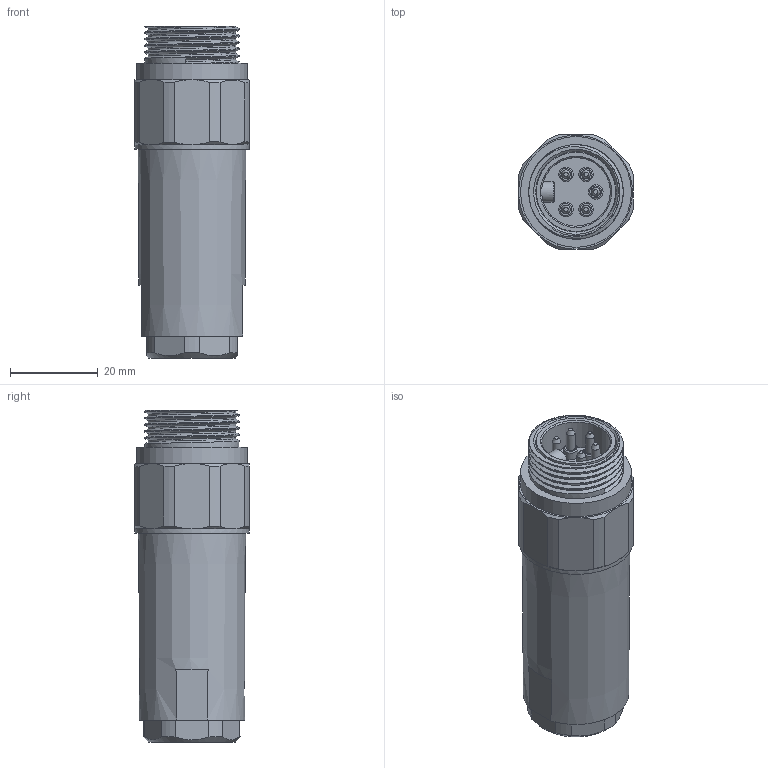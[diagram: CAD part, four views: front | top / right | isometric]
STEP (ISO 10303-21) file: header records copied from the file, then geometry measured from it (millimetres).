
FILE_DESCRIPTION(/* description */ (''),/* implementation_level */ '2;1');
FILE_NAME(/* name */ '7 8 5MS-PG11-0919.stp',/* time_stamp */ '2024-09-11T16:11:33+08:00',/* author */ (''),/* organization */ (''),/* preprocessor_version */ 'ST-DEVELOPER v16.7',/* originating_system */ 'SIEMENS PLM Software NX 12.0',/* authorisation */ '');
FILE_SCHEMA (('AP203_CONFIGURATION_CONTROLLED_3D_DESIGN_OF_MECHANICAL_PARTS_AND_ASSEMBLIES_MIM_LF { 1 0 10303 403 2 1 2}'));
Products named in the file (1): lyj16B44E27mjrk
Bounding box: 26 x 26 x 75.5 mm (x, y, z)
Surface area: 19604.7 mm2
Topology: 3 solids, 4 shells, 617 faces, 1861 edges, 1229 vertices
Faces by surface type: cylinder 236, plane 228, bspline 83, cone 50, revolution 11, torus 9
Full cylindrical faces by diameter (mm): 2 x5, 2.7 x5, 3 x5, 3.3 x5, 3.4 x5, 3.5 x1, 3.8 x2, 12.2 x1, 13.6 x1, 18 x1, 18.3 x1, 18.5 x1, 18.8 x1, 20.3 x8, 21 x1, 21.3 x8, 24 x1, 25.2 x1, 26 x1
Entity records: 55370 total; most frequent: CARTESIAN_POINT 40473, ORIENTED_EDGE 3394, DIRECTION 2577, EDGE_CURVE 1697, VERTEX_POINT 1156, AXIS2_PLACEMENT_3D 1008, EDGE_LOOP 736, B_SPLINE_CURVE_WITH_KNOTS 658
